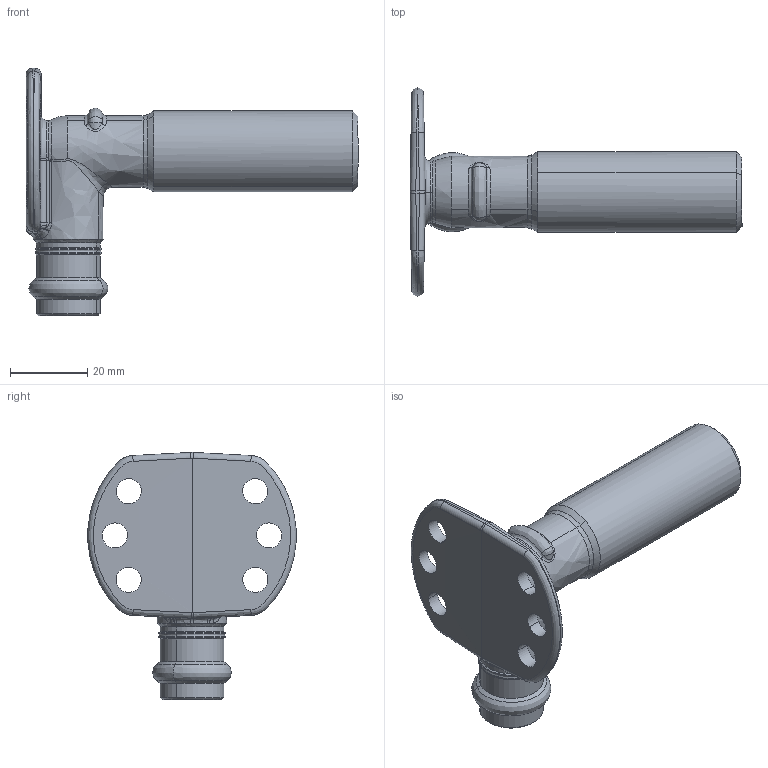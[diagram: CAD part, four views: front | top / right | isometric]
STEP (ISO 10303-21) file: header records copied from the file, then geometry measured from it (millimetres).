
FILE_DESCRIPTION(('STEP AP214'),'1');
FILE_NAME('1161002.stp','2025-08-13T07:21:08',('CAD-PIM'),('TransMagic R14'),'Spatial InterOp 3D',' ',' ');
FILE_SCHEMA(('AUTOMOTIVE_DESIGN { 1 0 10303 214 1 1 1 1 }'));
Length unit declared in the file: millimetre
Products named in the file (1): 1161002
Bounding box: 85.97 x 53.87 x 64 mm (x, y, z)
Volume: 38537.4 mm3; surface area: 11961.9 mm2
Topology: 1 solids, 1 shells, 140 faces, 334 edges, 197 vertices
Faces by surface type: bspline 140
Entity records: 10792 total; most frequent: CARTESIAN_POINT 4543, STYLED_ITEM 672, PRESENTATION_STYLE_ASSIGNMENT 672, COLOUR_RGB 672, ORIENTED_EDGE 668, EDGE_CURVE 334, CURVE_STYLE 334, DRAUGHTING_PRE_DEFINED_CURVE_FONT 334
